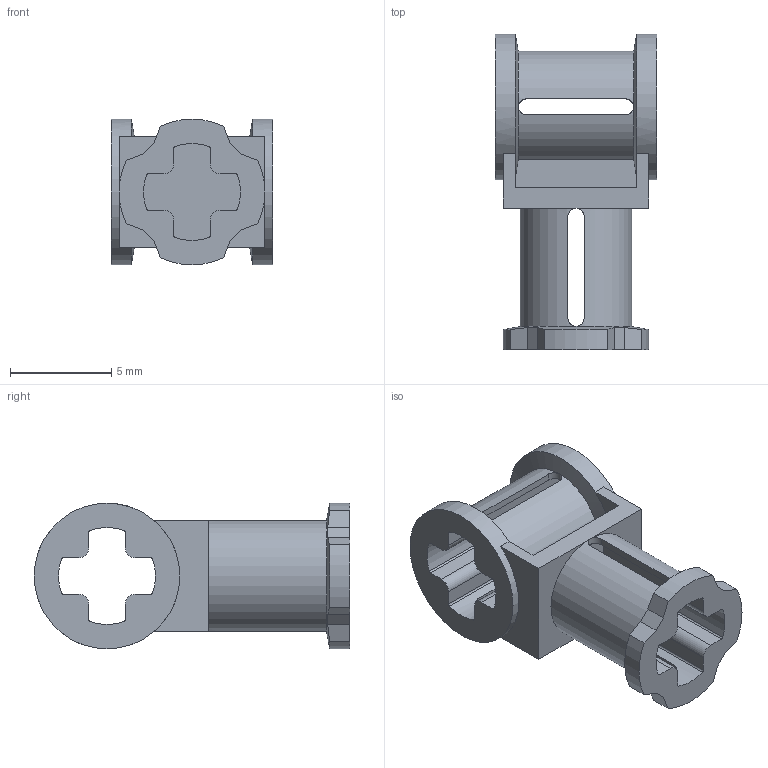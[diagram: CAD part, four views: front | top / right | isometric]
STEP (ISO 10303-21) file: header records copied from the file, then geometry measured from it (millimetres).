
FILE_DESCRIPTION(/* description */ ('Unknown'),/* implementation_level */ '2;1');
FILE_NAME(/* name */ 'Black_4107081_JCA',/* time_stamp */ '2025-07-21T23:43:33+02:00',/* author */ ('Unknown'),/* organization */ ('Unknown'),/* preprocessor_version */ 'ST-DEVELOPER v19.4',/* originating_system */ 'Solid Edge',/* authorisation */ 'Unknown');
FILE_SCHEMA (('AUTOMOTIVE_DESIGN {1 0 10303 214 3 1 1}'));
Length unit declared in the file: millimetre
Products named in the file (1): Black_4107081_JCA
Bounding box: 8 x 15.6 x 7.2 mm (x, y, z)
Volume: 252 mm3; surface area: 722.7 mm2
Topology: 1 solids, 1 shells, 108 faces, 314 edges, 203 vertices
Faces by surface type: plane 54, cylinder 51, cone 3
Full cylindrical faces by diameter (mm): 7.2 x2
Entity records: 3616 total; most frequent: CARTESIAN_POINT 749, ORIENTED_EDGE 616, DIRECTION 578, EDGE_CURVE 308, AXIS2_PLACEMENT_3D 203, VERTEX_POINT 200, LINE 172, VECTOR 172
